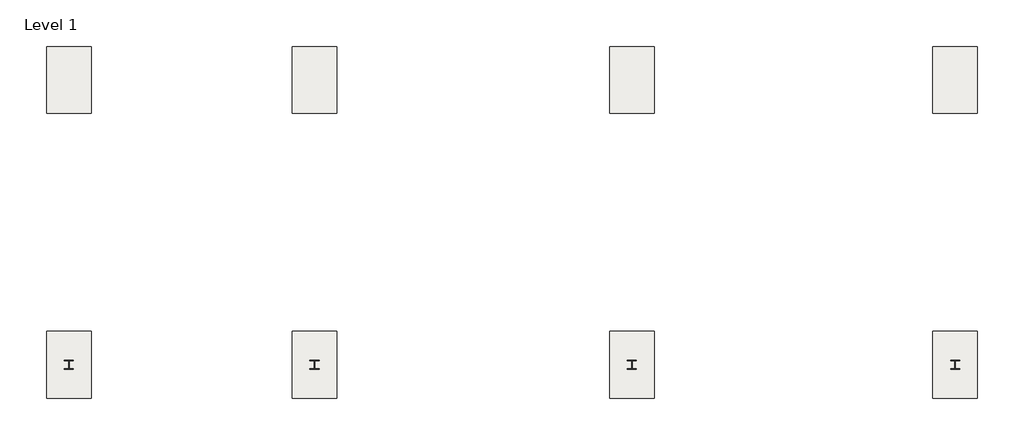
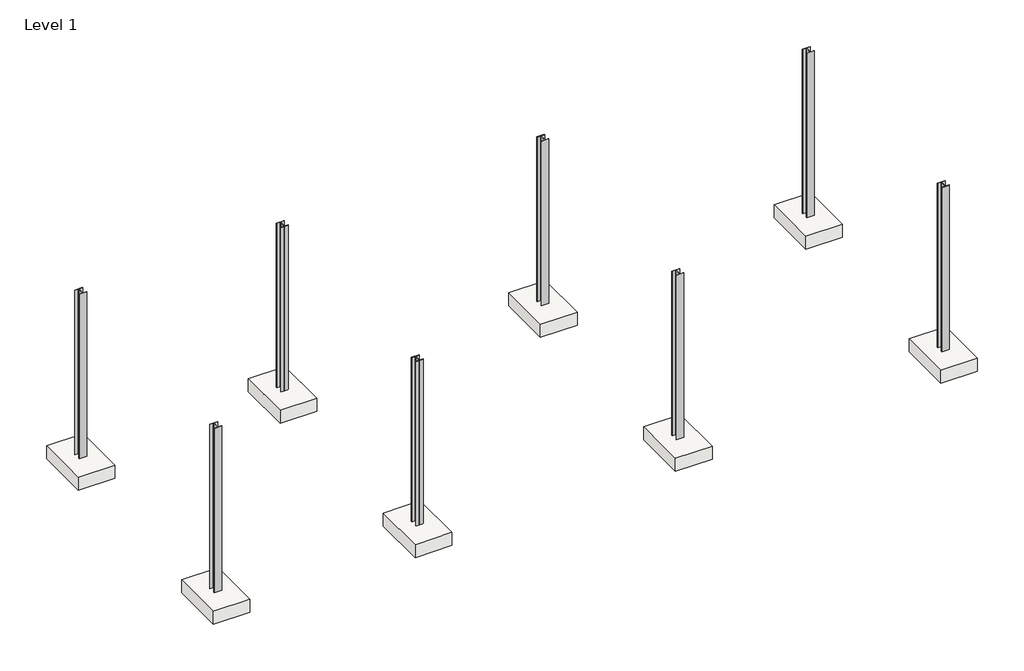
# One storey: 8 columns, 8 slabs.
"""IFC4 building model written with IfcOpenShell, lengths in millimetres."""

import ifcopenshell
import ifcopenshell.guid

model = None  # the IFC model being written
_history = None  # IfcOwnerHistory: only IFC2X3 demands one
_inside = {}  # id of a spatial element -> (the spatial element, [elements in it])
_under = {}  # id of a project, library or spatial element -> (it, [spatial elements below it])
_declared = {}  # id of a project -> (the project, [libraries it declares])
_typed = {}  # id of a type object -> (the type object, [elements of that type])
_made_of = {}  # id of a material, layer set ... -> (it, [elements and type objects made of it])


def new_model(schema):
    """Start an empty IFC model of exactly this schema.

    Asked for "IFC4X3", IfcOpenShell would pick the latest addendum, in which some entities
    have other attributes; the version numbers below select the first issue.
    IFC2X3 requires an IfcOwnerHistory on every rooted entity: one is made here for all.
    """
    global model, _history
    if schema == "IFC4X3":
        model = ifcopenshell.file(schema_version=(4, 3, 0, 0))
    else:
        model = ifcopenshell.file(schema=schema)
    _inside.clear()
    _under.clear()
    _declared.clear()
    _typed.clear()
    _made_of.clear()
    _history = None
    if model.schema == "IFC2X3":
        org = make("IfcOrganization", Name="unknown")
        user = make(
            "IfcPersonAndOrganization",
            ThePerson=make("IfcPerson", FamilyName="unknown"),
            TheOrganization=org,
        )
        app = make(
            "IfcApplication",
            ApplicationDeveloper=org,
            Version="unknown",
            ApplicationFullName="unknown",
            ApplicationIdentifier="unknown",
        )
        _history = make(
            "IfcOwnerHistory",
            OwningUser=user,
            OwningApplication=app,
            ChangeAction="ADDED",
            CreationDate=0,
        )
    return model


def make(cls, **values):
    """One entity of the class cls with the attributes given. An attribute that is None is left unset."""
    return model.create_entity(
        cls, **{name: value for name, value in values.items() if value is not None}
    )


def rooted(cls, **values):
    """An entity with a GlobalId (a new one), such as an element, a storey or a relation."""
    return make(cls, GlobalId=ifcopenshell.guid.new(), OwnerHistory=_history, **values)


def si_unit(unit_type, name, prefix=None):
    """IfcSIUnit, for example si_unit("LENGTHUNIT", "METRE", prefix="MILLI")."""
    return make("IfcSIUnit", UnitType=unit_type, Prefix=prefix, Name=name)


def assignment(units):
    """IfcUnitAssignment: the units of a project."""
    return None if units is None else make("IfcUnitAssignment", Units=units)


def point(xyz):
    """IfcCartesianPoint."""
    return None if xyz is None else make("IfcCartesianPoint", Coordinates=xyz)


def direction(xyz):
    """IfcDirection."""
    return None if xyz is None else make("IfcDirection", DirectionRatios=xyz)


def frame(location, z_axis=None, x_axis=None):
    """IfcAxis2Placement3D, a coordinate frame: its origin and axes. An axis left out is left unset."""
    return make(
        "IfcAxis2Placement3D",
        Location=point(location),
        Axis=direction(z_axis),
        RefDirection=direction(x_axis),
    )


def frame_2d(location, x_axis=None):
    """IfcAxis2Placement2D, a coordinate frame in the plane: its origin and x axis."""
    return make(
        "IfcAxis2Placement2D", Location=point(location), RefDirection=direction(x_axis)
    )


def origin():
    """The frame at (0, 0, 0) with its axes left unset."""
    return frame((0.0, 0.0, 0.0))


def origin_with_axes():
    """The frame at (0, 0, 0) with the z axis (0, 0, 1) and the x axis (1, 0, 0) written out."""
    return frame((0.0, 0.0, 0.0), z_axis=(0.0, 0.0, 1.0), x_axis=(1.0, 0.0, 0.0))


def place(relative_to, where):
    """IfcLocalPlacement: puts the frame where relative to a parent placement (None: the world)."""
    return make(
        "IfcLocalPlacement", PlacementRelTo=relative_to, RelativePlacement=where
    )


def context(
    kind, dimensions, precision=None, world=None, true_north=None, identifier=None
):
    """IfcGeometricRepresentationContext, for example the 3D "Model" context."""
    return make(
        "IfcGeometricRepresentationContext",
        ContextIdentifier=identifier,
        ContextType=kind,
        CoordinateSpaceDimension=dimensions,
        Precision=precision,
        WorldCoordinateSystem=world,
        TrueNorth=true_north,
    )


def project(units=None, contexts=None):
    """IfcProject with its units and contexts."""
    return rooted(
        "IfcProject",
        Name="project",
        RepresentationContexts=contexts,
        UnitsInContext=assignment(units),
    )


def spatial(cls, under=None, at=None, **own):
    """A site, building, storey or space (cls), placed at a placement, below another one or the project."""
    s = rooted(cls, ObjectPlacement=at, **own)
    if under is not None:
        _under.setdefault(under.id(), (under, []))[1].append(s)
    return s


def polyline(points):
    """IfcPolyline through the points."""
    return make("IfcPolyline", Points=[point(p) for p in points])


def circle_curve(where, radius):
    """IfcCircle in the frame where."""
    return make("IfcCircle", Position=where, Radius=radius)


def trimmed(basis, trim1, trim2, sense, master):
    """IfcTrimmedCurve: the piece of a basis curve between two trims."""
    return make(
        "IfcTrimmedCurve",
        BasisCurve=basis,
        Trim1=trim1,
        Trim2=trim2,
        SenseAgreement=sense,
        MasterRepresentation=master,
    )


def segment(curve, same_sense, transition):
    """IfcCompositeCurveSegment."""
    return make(
        "IfcCompositeCurveSegment",
        Transition=transition,
        SameSense=same_sense,
        ParentCurve=curve,
    )


def composite_curve(segments, self_intersect=None):
    """IfcCompositeCurve: segments joined end to end."""
    return make("IfcCompositeCurve", Segments=segments, SelfIntersect=self_intersect)


def outline(outer, holes=None, kind="AREA"):
    """IfcArbitraryClosedProfileDef: a profile drawn as a closed curve; with holes, ...WithVoids."""
    if holes is None:
        return make("IfcArbitraryClosedProfileDef", ProfileType=kind, OuterCurve=outer)
    return make(
        "IfcArbitraryProfileDefWithVoids",
        ProfileType=kind,
        OuterCurve=outer,
        InnerCurves=holes,
    )


def extrude(swept, where, along, depth):
    """IfcExtrudedAreaSolid: the profile swept, set in the frame where, extruded along a direction by depth."""
    return make(
        "IfcExtrudedAreaSolid",
        SweptArea=swept,
        Position=where,
        ExtrudedDirection=direction(along),
        Depth=depth,
    )


def shape(context_of_items, identifier, shape_type, items):
    """IfcShapeRepresentation: the items that make up one representation, for example the "Body"."""
    return make(
        "IfcShapeRepresentation",
        ContextOfItems=context_of_items,
        RepresentationIdentifier=identifier,
        RepresentationType=shape_type,
        Items=items,
    )


def source(mapping_origin, context_of_items, identifier, shape_type, items):
    """IfcRepresentationMap: a shape defined once, which mapped items show again and again."""
    return make(
        "IfcRepresentationMap",
        MappingOrigin=mapping_origin,
        MappedRepresentation=shape(context_of_items, identifier, shape_type, items),
    )


def transform(
    local_origin,
    x_axis=None,
    y_axis=None,
    z_axis=None,
    scale=None,
    scale2=None,
    scale3=None,
    uniform=True,
):
    """IfcCartesianTransformationOperator3D, or its non-uniform kind. x_axis, y_axis, z_axis: its Axis1, 2, 3."""
    if uniform:
        return make(
            "IfcCartesianTransformationOperator3D",
            Axis1=direction(x_axis),
            Axis2=direction(y_axis),
            LocalOrigin=point(local_origin),
            Scale=scale,
            Axis3=direction(z_axis),
        )
    return make(
        "IfcCartesianTransformationOperator3DnonUniform",
        Axis1=direction(x_axis),
        Axis2=direction(y_axis),
        LocalOrigin=point(local_origin),
        Scale=scale,
        Axis3=direction(z_axis),
        Scale2=scale2,
        Scale3=scale3,
    )


def mapped(mapping_source, mapping_target):
    """IfcMappedItem: shows the shape of a source again, moved by a transform."""
    return make(
        "IfcMappedItem", MappingSource=mapping_source, MappingTarget=mapping_target
    )


def made_of(thing, what):
    """Note that an element or type object is made of a material, layer set ...; save() writes the relation."""
    if what is not None:
        _made_of.setdefault(what.id(), (what, []))[1].append(thing)
    return thing


def element(
    cls,
    number,
    at=None,
    inside=None,
    cuts=None,
    type_object=None,
    material=None,
    context=None,
    identifier="Body",
    shape_type=None,
    held_by="IfcProductDefinitionShape",
    body=None,
    shapes=None,
    **own,
):
    """One element of the class cls, such as IfcWall. Its Tag is "e" and its number.

    at: its placement. inside: the storey or other place that contains it. cuts: it is an
    opening in that element (IfcRelVoidsElement). A single representation is given by context,
    identifier, shape_type and body (its items); several are given by shapes. held_by: the class
    of the entity that holds the representations. save() writes the other relations.
    """
    e = rooted(cls, Tag="e%d" % number, ObjectPlacement=at, **own)
    if body is not None:
        shapes = [shape(context, identifier, shape_type, body)]
    if shapes is not None:
        e.Representation = make(held_by, Representations=shapes)
    if inside is not None:
        _inside.setdefault(inside.id(), (inside, []))[1].append(e)
    if cuts is not None:
        rooted(
            "IfcRelVoidsElement", RelatingBuildingElement=cuts, RelatedOpeningElement=e
        )
    if type_object is not None:
        _typed.setdefault(type_object.id(), (type_object, []))[1].append(e)
    return made_of(e, material)


def aggregate(whole, parts):
    """IfcRelAggregates: a whole, such as a stair, and the parts it consists of."""
    return rooted("IfcRelAggregates", RelatingObject=whole, RelatedObjects=parts)


def save(model, path):
    """Write the relations noted so far, then the file.

    IfcRelAggregates (storeys below a building ...), IfcRelContainedInSpatialStructure (elements
    in a storey), IfcRelDefinesByType, IfcRelAssociatesMaterial and IfcRelDeclares: one each for
    every whole, place, type object, material and project.
    """
    for whole, parts in _under.values():
        aggregate(whole, parts)
    for where, things in _inside.values():
        rooted(
            "IfcRelContainedInSpatialStructure",
            RelatedElements=things,
            RelatingStructure=where,
        )
    for kind, things in _typed.values():
        rooted("IfcRelDefinesByType", RelatedObjects=things, RelatingType=kind)
    for what, things in _made_of.values():
        rooted("IfcRelAssociatesMaterial", RelatedObjects=things, RelatingMaterial=what)
    for by, libraries in _declared.values():
        rooted("IfcRelDeclares", RelatingContext=by, RelatedDefinitions=libraries)
    model.write(path)


def w_wide_flange_column_w10x49_a6c59e3f(model_context):
    return source(origin(), model_context, "Body", "SweptSolid", [
        extrude(outline(composite_curve([segment(polyline([(127.0, 126.7519531), (127.0, 112.5636719), (21.8777344, 112.5636719)]), True, "CONTINUOUS"), segment(trimmed(circle_curve(frame_2d((21.8777344, 95.0019531)), 17.5617188), [point((21.8777344, 112.5636719))], [point((4.3160156, 95.0019531))], True, "CARTESIAN"), True, "CONTINUOUS"), segment(polyline([(4.3160156, 95.0019531), (4.3160156, -95.0019531)]), True, "CONTINUOUS"), segment(trimmed(circle_curve(frame_2d((21.8777344, -95.0019531)), 17.5617187), [point((4.3160156, -95.0019531))], [point((21.8777344, -112.5636719))], True, "CARTESIAN"), True, "CONTINUOUS"), segment(polyline([(21.8777344, -112.5636719), (127.0, -112.5636719), (127.0, -126.7519531), (-127.0, -126.7519531), (-127.0, -112.5636719), (-21.8777344, -112.5636719)]), True, "CONTINUOUS"), segment(trimmed(circle_curve(frame_2d((-21.8777344, -95.0019531)), 17.5617187), [point((-21.8777344, -112.5636719))], [point((-4.3160156, -95.0019531))], True, "CARTESIAN"), True, "CONTINUOUS"), segment(polyline([(-4.3160156, -95.0019531), (-4.3160156, 95.0019531)]), True, "CONTINUOUS"), segment(trimmed(circle_curve(frame_2d((-21.8777344, 95.0019531)), 17.5617188), [point((-4.3160156, 95.0019531))], [point((-21.8777344, 112.5636719))], True, "CARTESIAN"), True, "CONTINUOUS"), segment(polyline([(-21.8777344, 112.5636719), (-127.0, 112.5636719), (-127.0, 126.7519531), (127.0, 126.7519531)]), True, "CONTINUOUS")], self_intersect=False)), origin_with_axes(), (0.0, 0.0, 1.0), 5791.2),
    ])


def slab_5ba74754(model_context):
    return source(origin(), model_context, "Body", "SweptSolid", [
        extrude(outline(polyline([(609.6, 914.4), (609.6, -914.4), (-609.6, -914.4), (-609.6, 914.4), (609.6, 914.4)])), frame((0.0, 0.0, -457.2), z_axis=(0.0, 0.0, 1.0), x_axis=(1.0, 0.0, 0.0)), (0.0, 0.0, 1.0), 457.2),
    ])


model = new_model("IFC4")

# Units and contexts
model_context = context("Model", 3, world=origin())
ifc_project = project(units=[si_unit("LENGTHUNIT", "METRE", prefix="MILLI")], contexts=[model_context])

# Site, building, storey
site = spatial("IfcSite", under=ifc_project)
building = spatial("IfcBuilding", under=site)
storey = spatial("IfcBuildingStorey", under=building, Name="Level 1", Elevation=0.0)

# Columns
placement = place(None, origin())
w_wide_flange_column_w10x49_shape = w_wide_flange_column_w10x49_a6c59e3f(model_context)
element("IfcColumn", 1, ObjectType="W-Wide Flange-Column : W10X49", at=placement, inside=storey, context=model_context, shape_type="MappedRepresentation", body=[
    mapped(w_wide_flange_column_w10x49_shape, transform((-21803.8991943, 20379.1714933, 0.0), x_axis=(1.0, 0.0, 0.0), y_axis=(0.0, 1.0, 0.0), z_axis=(0.0, 0.0, 1.0))),
])
element("IfcColumn", 2, ObjectType="W-Wide Flange-Column : W10X49", at=placement, inside=storey, context=model_context, shape_type="MappedRepresentation", body=[
    mapped(w_wide_flange_column_w10x49_shape, transform((-21803.8991943, 12590.8050464, 0.0), x_axis=(1.0, 0.0, 0.0), y_axis=(0.0, 1.0, 0.0), z_axis=(0.0, 0.0, 1.0))),
])
element("IfcColumn", 3, ObjectType="W-Wide Flange-Column : W10X49", at=placement, inside=storey, context=model_context, shape_type="MappedRepresentation", body=[
    mapped(w_wide_flange_column_w10x49_shape, transform((-15084.5242206, 20379.1714933, 0.0), x_axis=(1.0, 0.0, 0.0), y_axis=(0.0, 1.0, 0.0), z_axis=(0.0, 0.0, 1.0))),
])
element("IfcColumn", 4, ObjectType="W-Wide Flange-Column : W10X49", at=placement, inside=storey, context=model_context, shape_type="MappedRepresentation", body=[
    mapped(w_wide_flange_column_w10x49_shape, transform((-6411.4991943, 20379.1714933, 0.0), x_axis=(1.0, 0.0, 0.0), y_axis=(0.0, 1.0, 0.0), z_axis=(0.0, 0.0, 1.0))),
])
element("IfcColumn", 5, ObjectType="W-Wide Flange-Column : W10X49", at=placement, inside=storey, context=model_context, shape_type="MappedRepresentation", body=[
    mapped(w_wide_flange_column_w10x49_shape, transform((2427.7008057, 20379.1714933, 0.0), x_axis=(1.0, 0.0, 0.0), y_axis=(0.0, 1.0, 0.0), z_axis=(0.0, 0.0, 1.0))),
])
element("IfcColumn", 6, ObjectType="W-Wide Flange-Column : W10X49", at=placement, inside=storey, context=model_context, shape_type="MappedRepresentation", body=[
    mapped(w_wide_flange_column_w10x49_shape, transform((-15084.5242206, 12590.8050464, 0.0), x_axis=(1.0, 0.0, 0.0), y_axis=(0.0, 1.0, 0.0), z_axis=(0.0, 0.0, 1.0))),
])
element("IfcColumn", 7, ObjectType="W-Wide Flange-Column : W10X49", at=placement, inside=storey, context=model_context, shape_type="MappedRepresentation", body=[
    mapped(w_wide_flange_column_w10x49_shape, transform((-6411.4991943, 12590.8050464, 0.0), x_axis=(1.0, 0.0, 0.0), y_axis=(0.0, 1.0, 0.0), z_axis=(0.0, 0.0, 1.0))),
])
element("IfcColumn", 8, ObjectType="W-Wide Flange-Column : W10X49", at=placement, inside=storey, context=model_context, shape_type="MappedRepresentation", body=[
    mapped(w_wide_flange_column_w10x49_shape, transform((2427.7008057, 12590.8050464, 0.0), x_axis=(1.0, 0.0, 0.0), y_axis=(0.0, 1.0, 0.0), z_axis=(0.0, 0.0, 1.0))),
])

# Slabs
slab_shape = slab_5ba74754(model_context)
element("IfcSlab", 9, ObjectType="Footing-Rectangular : 72\" x 48\" x 18\"", at=placement, inside=storey, context=model_context, shape_type="MappedRepresentation", body=[
    mapped(slab_shape, transform((-21803.8991943, 20379.1714933, 0.0), x_axis=(1.0, 0.0, 0.0), y_axis=(0.0, 1.0, 0.0), z_axis=(0.0, 0.0, 1.0))),
])
element("IfcSlab", 10, ObjectType="Footing-Rectangular : 72\" x 48\" x 18\"", at=placement, inside=storey, context=model_context, shape_type="MappedRepresentation", body=[
    mapped(slab_shape, transform((-21803.8991943, 12590.8050464, 0.0), x_axis=(1.0, 0.0, 0.0), y_axis=(0.0, 1.0, 0.0), z_axis=(0.0, 0.0, 1.0))),
])
element("IfcSlab", 11, ObjectType="Footing-Rectangular : 72\" x 48\" x 18\"", at=placement, inside=storey, context=model_context, shape_type="MappedRepresentation", body=[
    mapped(slab_shape, transform((-15084.5242206, 20379.1714933, 0.0), x_axis=(1.0, 0.0, 0.0), y_axis=(0.0, 1.0, 0.0), z_axis=(0.0, 0.0, 1.0))),
])
element("IfcSlab", 12, ObjectType="Footing-Rectangular : 72\" x 48\" x 18\"", at=placement, inside=storey, context=model_context, shape_type="MappedRepresentation", body=[
    mapped(slab_shape, transform((-6411.4991943, 20379.1714933, 0.0), x_axis=(1.0, 0.0, 0.0), y_axis=(0.0, 1.0, 0.0), z_axis=(0.0, 0.0, 1.0))),
])
element("IfcSlab", 13, ObjectType="Footing-Rectangular : 72\" x 48\" x 18\"", at=placement, inside=storey, context=model_context, shape_type="MappedRepresentation", body=[
    mapped(slab_shape, transform((2427.7008057, 20379.1714933, 0.0), x_axis=(1.0, 0.0, 0.0), y_axis=(0.0, 1.0, 0.0), z_axis=(0.0, 0.0, 1.0))),
])
element("IfcSlab", 14, ObjectType="Footing-Rectangular : 72\" x 48\" x 18\"", at=placement, inside=storey, context=model_context, shape_type="MappedRepresentation", body=[
    mapped(slab_shape, transform((-15084.5242206, 12590.8050464, 0.0), x_axis=(1.0, 0.0, 0.0), y_axis=(0.0, 1.0, 0.0), z_axis=(0.0, 0.0, 1.0))),
])
element("IfcSlab", 15, ObjectType="Footing-Rectangular : 72\" x 48\" x 18\"", at=placement, inside=storey, context=model_context, shape_type="MappedRepresentation", body=[
    mapped(slab_shape, transform((-6411.4991943, 12590.8050464, 0.0), x_axis=(1.0, 0.0, 0.0), y_axis=(0.0, 1.0, 0.0), z_axis=(0.0, 0.0, 1.0))),
])
element("IfcSlab", 16, ObjectType="Footing-Rectangular : 72\" x 48\" x 18\"", at=placement, inside=storey, context=model_context, shape_type="MappedRepresentation", body=[
    mapped(slab_shape, transform((2427.7008057, 12590.8050464, 0.0), x_axis=(1.0, 0.0, 0.0), y_axis=(0.0, 1.0, 0.0), z_axis=(0.0, 0.0, 1.0))),
])

save(model, "model.ifc")
